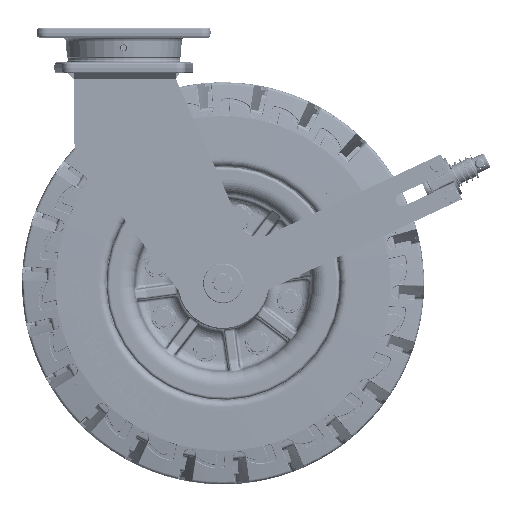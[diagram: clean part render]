
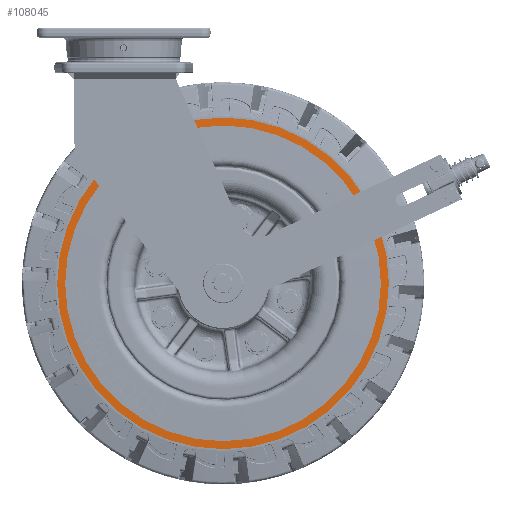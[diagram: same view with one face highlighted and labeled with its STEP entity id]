
A CAD part, front view. The second image highlights one B-rep face of the part: STEP entity #108045.
In plain terms, the highlighted conical face has half-angle 88.393 degrees and reference radius 148 mm.
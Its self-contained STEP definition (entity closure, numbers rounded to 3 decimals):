
#3927=CONICAL_SURFACE('',#115427,148.,1.543);
#6709=LINE('',#254868,#10814);
#10814=VECTOR('',#128758,148.);
#19049=FACE_OUTER_BOUND('',#25468,.T.);
#25468=EDGE_LOOP('',(#86196,#86197,#86198,#86199));
#38492=CIRCLE('',#115428,166.999);
#38493=CIRCLE('',#115429,158.999);
#45814=VERTEX_POINT('',#254865);
#45815=VERTEX_POINT('',#254867);
#59870=EDGE_CURVE('',#45814,#45814,#38492,.T.);
#59871=EDGE_CURVE('',#45814,#45815,#6709,.T.);
#59872=EDGE_CURVE('',#45815,#45815,#38493,.T.);
#86196=ORIENTED_EDGE('',*,*,#59870,.T.);
#86197=ORIENTED_EDGE('',*,*,#59871,.T.);
#86198=ORIENTED_EDGE('',*,*,#59872,.T.);
#86199=ORIENTED_EDGE('',*,*,#59871,.F.);
#108045=ADVANCED_FACE('',(#19049),#3927,.T.);
#115427=AXIS2_PLACEMENT_3D('',#254864,#128754,#128755);
#115428=AXIS2_PLACEMENT_3D('',#254866,#128756,#128757);
#115429=AXIS2_PLACEMENT_3D('',#254869,#128759,#128760);
#128754=DIRECTION('center_axis',(0.,1.,0.));
#128755=DIRECTION('ref_axis',(-0.866,0.,-0.5));
#128756=DIRECTION('center_axis',(0.,-1.,0.));
#128757=DIRECTION('ref_axis',(-0.866,0.,-0.5));
#128758=DIRECTION('',(-0.866,-0.028,-0.5));
#128759=DIRECTION('center_axis',(0.,1.,0.));
#128760=DIRECTION('ref_axis',(-0.866,0.,-0.5));
#254864=CARTESIAN_POINT('Origin',(100.,-55.925,-252.5));
#254865=CARTESIAN_POINT('',(244.625,-55.392,-169.001));
#254866=CARTESIAN_POINT('Origin',(100.,-55.392,-252.5));
#254867=CARTESIAN_POINT('',(237.697,-55.616,-173.001));
#254868=CARTESIAN_POINT('',(228.172,-55.925,-178.5));
#254869=CARTESIAN_POINT('Origin',(100.,-55.616,-252.5));
